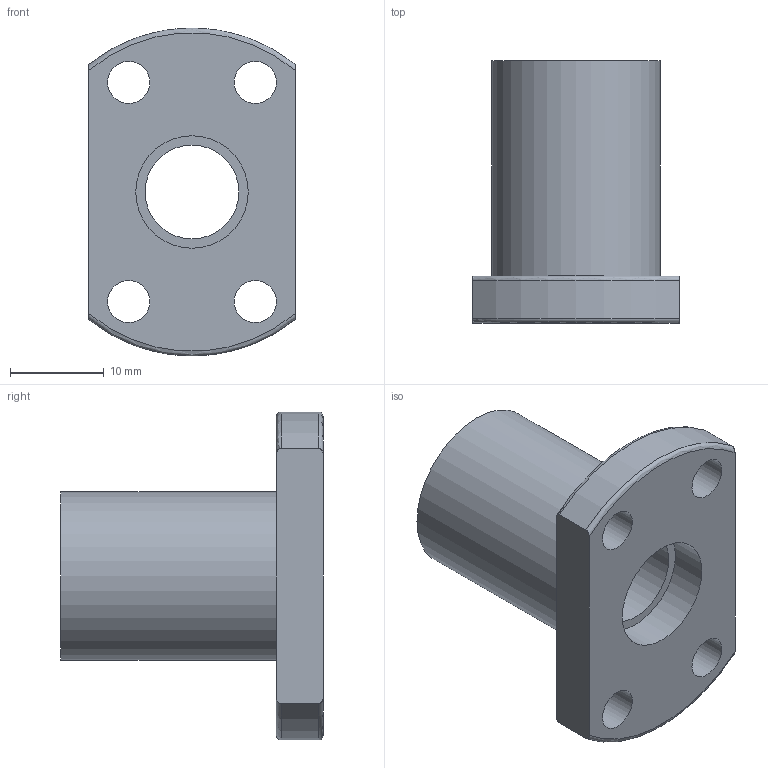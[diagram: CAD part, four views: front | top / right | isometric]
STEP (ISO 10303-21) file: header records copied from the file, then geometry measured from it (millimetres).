
FILE_DESCRIPTION(/* description */ ('Unknown'),/* implementation_level */ '2;1');
FILE_NAME(/* name */ '1002',/* time_stamp */ '2020-11-10T14:15:30+08:00',/* author */ ('Unknown'),/* organization */ ('Unknown'),/* preprocessor_version */ 'ST-DEVELOPER v16.7',/* originating_system */ 'DEX',/* authorisation */ $);
FILE_SCHEMA (('AUTOMOTIVE_DESIGN {1 0 10303 214 3 1 1}'));
Length unit declared in the file: millimetre
Products named in the file (1): 1002
Bounding box: 22 x 28 x 35 mm (x, y, z)
Volume: 6632.8 mm3; surface area: 4149.6 mm2
Topology: 1 solids, 1 shells, 21 faces, 54 edges, 38 vertices
Faces by surface type: cylinder 10, plane 7, torus 4
Full cylindrical faces by diameter (mm): 4.5 x4, 10 x1, 12 x2, 18 x1
Entity records: 868 total; most frequent: CARTESIAN_POINT 362, DIRECTION 100, ORIENTED_EDGE 80, AXIS2_PLACEMENT_3D 46, EDGE_LOOP 42, FACE_BOUND 42, EDGE_CURVE 40, VERTEX_POINT 32
